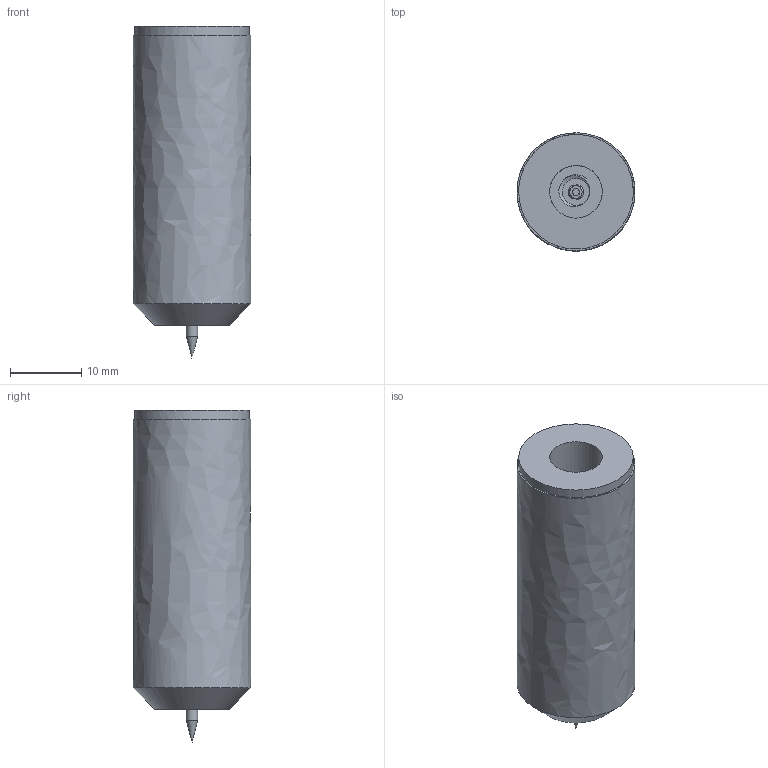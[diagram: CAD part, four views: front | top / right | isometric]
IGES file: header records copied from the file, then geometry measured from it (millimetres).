
Global section: file name: G1099; native system: Autodesk RealDWG; preprocessor: Autodesk Translation Framework DWG producer (atf_dwg_producer); organization: unknown; date: 20220308.145503; units: inch
Bounding box: 16.51 x 16.51 x 46.48 mm (x, y, z)
Volume: 7867.8 mm3; surface area: 3274.9 mm2
Topology: 1 solids, 1 shells, 105 faces, 436 edges, 340 vertices
Faces by surface type: bspline 105
